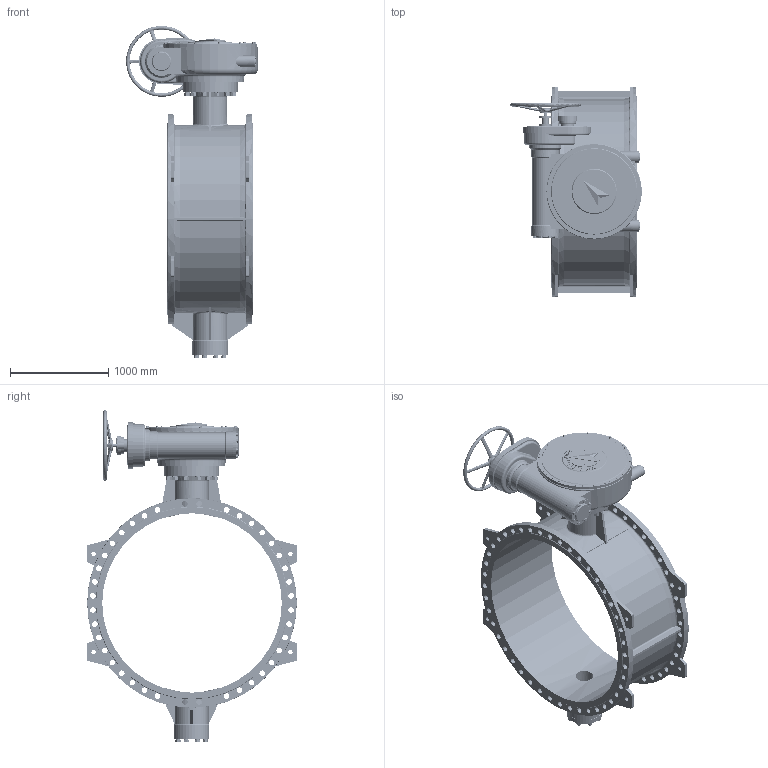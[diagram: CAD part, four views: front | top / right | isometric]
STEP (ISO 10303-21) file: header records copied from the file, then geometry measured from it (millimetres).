
FILE_DESCRIPTION (( 'STEP AP203' ), '1' );
FILE_NAME ('1800 16.STEP', '2014-11-07T09:25:27', ( '微软用户' ), ( '微软中国' ), 'SwSTEP 2.0', 'SolidWorks 2012', '' );
FILE_SCHEMA (( 'CONFIG_CONTROL_DESIGN' ));
Products named in the file (35): 1800 16; GB-T898 双头螺柱M36_双头螺柱M36×170; GB-T6170 六角螺母-304_六角螺母M36; GB-T95 平垫圈-304_平垫圈33; GB-T93 ｵｯｻﾉｵ貶ｦ-304_ｵｯｻﾉｵ貶ｦ36; GB-T95 平垫圈-304_平垫圈30; GB-T93 ｵｯｻﾉｵ貶ｦ-304_ｵｯｻﾉｵ貶ｦ30; GB-T5783 六角头螺栓M30-304_六角头螺栓M30X110; 9#F48; GB-T5783 六角头螺栓M12-304_六角头螺栓M12X45; GB-T95 平垫圈-304_平垫圈12; GB-T93 ｵｯｻﾉｵ貶ｦ-304_ｵｯｻﾉｵ貶ｦ12; GB-T95 平垫圈-304_平垫圈20; GB-T93 ｵｯｻﾉｵ貶ｦ-304_ｵｯｻﾉｵ貶ｦ20; GB-T5783 六角头螺栓M20-304_六角头螺栓M20X60; GB-T5783 六角头螺栓M10-304_六角头螺栓M10X25; GB-T93 ｵｯｻﾉｵ貶ｦ-304_ｵｯｻﾉｵ貶ｦ10; 癹弇蹟邡裔; 硌尨啣; -01 忒謫; 喘謫粣; 萇雄蟀諉釱; 蟀諉釱躇猾菜; 腹雄囀喘謫; 腹雄眊裔; 邧珆眊极; 喘謫眊覃淕菜; 喘謫眊裔; 喘謫眊; 綴傷裔; 躇猾菜; 恘謫眊裔; 恘謫眊极1; 1800D-4(g)2Xb-16Q-18 綴傷裔; 1800 16概极_揤坫阨盄
Assembly tree (158 placements, depth 3):
  1800 16
    1800 16概极_揤坫阨盄
    1800D-4(g)2Xb-16Q-18 綴傷裔
    9#F48
      恘謫眊极1
      恘謫眊裔
      躇猾菜  x2
      綴傷裔
      喘謫眊
      喘謫眊裔
      喘謫眊覃淕菜
      邧珆眊极
      腹雄眊裔
      腹雄囀喘謫
      蟀諉釱躇猾菜
      萇雄蟀諉釱
      喘謫粣
      -01 忒謫
      硌尨啣
      癹弇蹟邡裔  x2
      GB-T93 ｵｯｻﾉｵ貶ｦ-304_ｵｯｻﾉｵ貶ｦ10  x8
      GB-T5783 六角头螺栓M10-304_六角头螺栓M10X25  x8
      GB-T5783 六角头螺栓M20-304_六角头螺栓M20X60  x8
      GB-T93 ｵｯｻﾉｵ貶ｦ-304_ｵｯｻﾉｵ貶ｦ20  x8
      GB-T95 平垫圈-304_平垫圈20  x8
      GB-T93 ｵｯｻﾉｵ貶ｦ-304_ｵｯｻﾉｵ貶ｦ12  x12
      GB-T95 平垫圈-304_平垫圈12  x12
      GB-T5783 六角头螺栓M12-304_六角头螺栓M12X45  x12
    GB-T5783 六角头螺栓M30-304_六角头螺栓M30X110  x8
    GB-T93 ｵｯｻﾉｵ貶ｦ-304_ｵｯｻﾉｵ貶ｦ30  x8
    GB-T95 平垫圈-304_平垫圈30  x8
    GB-T93 ｵｯｻﾉｵ貶ｦ-304_ｵｯｻﾉｵ貶ｦ36  x12
    GB-T95 平垫圈-304_平垫圈33  x12
    GB-T6170 六角螺母-304_六角螺母M36  x12
    GB-T898 双头螺柱M36_双头螺柱M36×170
Bounding box: 1339.71 x 2140 x 3374.49 mm (x, y, z)
Volume: 473091607.4 mm3; surface area: 27804607.8 mm2
Topology: 157 solids, 157 shells, 5394 faces, 14144 edges, 9144 vertices
Faces by surface type: cylinder 2267, plane 1961, cone 555, torus 345, bspline 266
Entity records: 173949 total; most frequent: CARTESIAN_POINT 59038, ORIENTED_EDGE 22920, DIRECTION 22556, EDGE_CURVE 11460, AXIS2_PLACEMENT_3D 8777, VERTEX_POINT 7434, VECTOR 5002, LINE 5002
